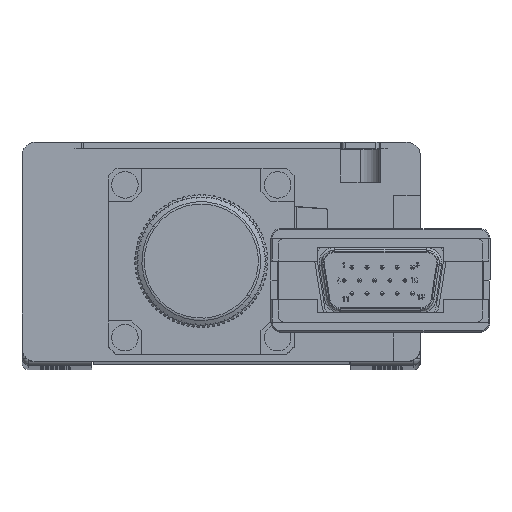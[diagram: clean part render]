
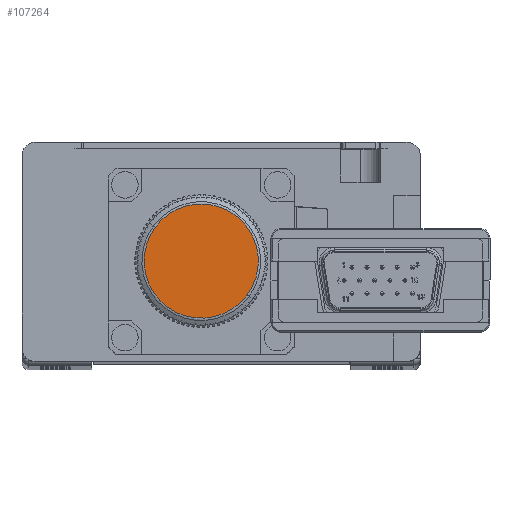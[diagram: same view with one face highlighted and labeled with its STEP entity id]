
A CAD part, top view. The second image highlights one B-rep face of the part: STEP entity #107264.
In plain terms, the highlighted planar face has unit normal (0, 0, 1).
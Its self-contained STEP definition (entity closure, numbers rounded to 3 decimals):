
#13155 = CARTESIAN_POINT ( 'NONE',  ( -3., 15.5, 497. ) ) ;
#31621 = EDGE_CURVE ( 'NONE', #148601, #104251, #159523, .T. ) ;
#36261 = DIRECTION ( 'NONE',  ( 0., 0., 1. ) ) ;
#41868 = EDGE_LOOP ( 'NONE', ( #73131, #108832 ) ) ;
#50405 = FACE_OUTER_BOUND ( 'NONE', #41868, .T. ) ;
#60099 = CARTESIAN_POINT ( 'NONE',  ( 3.924, 10.399, 497. ) ) ;
#66018 = CIRCLE ( 'NONE', #143557, 8.6 ) ;
#68836 = AXIS2_PLACEMENT_3D ( 'NONE', #13155, #148352, #99840 ) ;
#73131 = ORIENTED_EDGE ( 'NONE', *, *, #124322, .T. ) ;
#73482 = CARTESIAN_POINT ( 'NONE',  ( -3., 15.5, 497. ) ) ;
#79374 = AXIS2_PLACEMENT_3D ( 'NONE', #121436, #82664, #83455 ) ;
#82664 = DIRECTION ( 'NONE',  ( 0., 0., 1. ) ) ;
#83455 = DIRECTION ( 'NONE',  ( -0.805, 0.593, 0. ) ) ;
#99840 = DIRECTION ( 'NONE',  ( -0.805, 0.593, 0. ) ) ;
#104251 = VERTEX_POINT ( 'NONE', #108871 ) ;
#107264 = ADVANCED_FACE ( 'NONE', ( #50405 ), #159710, .F. ) ;
#108832 = ORIENTED_EDGE ( 'NONE', *, *, #31621, .T. ) ;
#108871 = CARTESIAN_POINT ( 'NONE',  ( -9.924, 20.601, 497. ) ) ;
#121436 = CARTESIAN_POINT ( 'NONE',  ( -3., 15.5, 497. ) ) ;
#124322 = EDGE_CURVE ( 'NONE', #104251, #148601, #66018, .T. ) ;
#134206 = DIRECTION ( 'NONE',  ( -0.805, 0.593, 0. ) ) ;
#143557 = AXIS2_PLACEMENT_3D ( 'NONE', #73482, #36261, #134206 ) ;
#148352 = DIRECTION ( 'NONE',  ( 0., 0., -1. ) ) ;
#148601 = VERTEX_POINT ( 'NONE', #60099 ) ;
#159523 = CIRCLE ( 'NONE', #79374, 8.6 ) ;
#159710 = PLANE ( 'NONE',  #68836 ) ;
